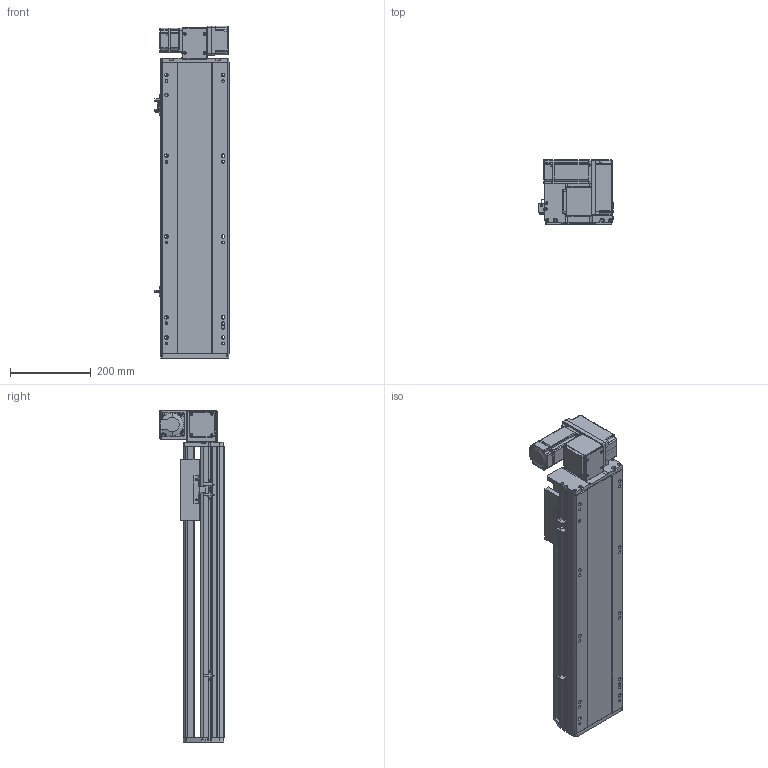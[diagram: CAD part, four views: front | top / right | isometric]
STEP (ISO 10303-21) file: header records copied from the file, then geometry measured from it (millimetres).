
FILE_DESCRIPTION (( 'STEP AP214' ), '1' );
FILE_NAME ('RTB17S-XX-450-RW-M40-C4.STEP', '2025-12-11T08:50:23', ( '' ), ( '' ), 'SwSTEP 2.0', 'SolidWorks 2018', '' );
FILE_SCHEMA (( 'AUTOMOTIVE_DESIGN' ));
Length unit declared in the file: millimetre
Products named in the file (14): 400W侜督萇儂^RTB17S-XX-XX-RW-M40-C4; RTB17S-XX-450-RW-M40-C4; RTB17S-L-007奻裔^RTB17S-XX-XX-RW-M40-C4; RMP17S-L-014-T20--々湍釱^RTB17S-RW-々湍釱蚾饜-400W_RTB17S-XX-XX-RW-M40-C4; RTB14-L-008-M20--萇儂啣^RTB17S-RW-々湍釱蚾饜-400W_RTB17S-XX-XX-RW-M40-C4; RTB17-R-011菁釱^RTB17S-XX-XX-RW-M40-C4; RTB14-L-005P--轴承塑胶压盖^RTB17S-RW-皮带座装配-400W_RTB17S-XX-XX-RW-M40-C4; RTB14-L-017P^RTB17S-RW-々湍釱蚾饜-400W_RTB17S-XX-XX-RW-M40-C4; RTB17S-L-001耜醱啣^RTB17S-XX-XX-RW-M40-C4; RTH13-BL-012覜茼え俋离^RTB17S-XX-XX-RW-M40-C4; RTB17S-L-004佪裝蹟譫蟀諉釱^RTB17S-XX-XX-RW-M40-C4; RTB17S-RW-々湍釱蚾饜-400W^RTB17S-XX-XX-RW-M40-C4; OMRON EE-SX672 传感器^RTB17S-XX-XX-RW-M40-C4; RTB14-L-018P^RTB17S-RW-々湍釱蚾饜-400W_RTB17S-XX-XX-RW-M40-C4
Assembly tree (16 placements, depth 3):
  RTB17S-XX-450-RW-M40-C4
    RTB17-R-011菁釱^RTB17S-XX-XX-RW-M40-C4
    RTB17S-L-007奻裔^RTB17S-XX-XX-RW-M40-C4
    OMRON EE-SX672 传感器^RTB17S-XX-XX-RW-M40-C4  x3
    RTB17S-L-001耜醱啣^RTB17S-XX-XX-RW-M40-C4
    400W侜督萇儂^RTB17S-XX-XX-RW-M40-C4
    RTB17S-L-004佪裝蹟譫蟀諉釱^RTB17S-XX-XX-RW-M40-C4
    RTH13-BL-012覜茼え俋离^RTB17S-XX-XX-RW-M40-C4
    RTB17S-RW-々湍釱蚾饜-400W^RTB17S-XX-XX-RW-M40-C4
      RMP17S-L-014-T20--々湍釱^RTB17S-RW-々湍釱蚾饜-400W_RTB17S-XX-XX-RW-M40-C4
      RTB14-L-005P--轴承塑胶压盖^RTB17S-RW-皮带座装配-400W_RTB17S-XX-XX-RW-M40-C4
      RTB14-L-008-M20--萇儂啣^RTB17S-RW-々湍釱蚾饜-400W_RTB17S-XX-XX-RW-M40-C4
      RTB14-L-017P^RTB17S-RW-々湍釱蚾饜-400W_RTB17S-XX-XX-RW-M40-C4  x2
      RTB14-L-018P^RTB17S-RW-々湍釱蚾饜-400W_RTB17S-XX-XX-RW-M40-C4
Bounding box: 183.5 x 160.5 x 822.5 mm (x, y, z)
Volume: 7883927 mm3; surface area: 1010753.2 mm2
Topology: 15 solids, 15 shells, 2173 faces, 5979 edges, 3897 vertices
Faces by surface type: plane 1064, cylinder 661, bspline 301, cone 139, torus 8
Entity records: 61097 total; most frequent: CARTESIAN_POINT 16984, ORIENTED_EDGE 8802, DIRECTION 8216, EDGE_CURVE 4401, VERTEX_POINT 2885, AXIS2_PLACEMENT_3D 2815, LINE 2586, VECTOR 2586
